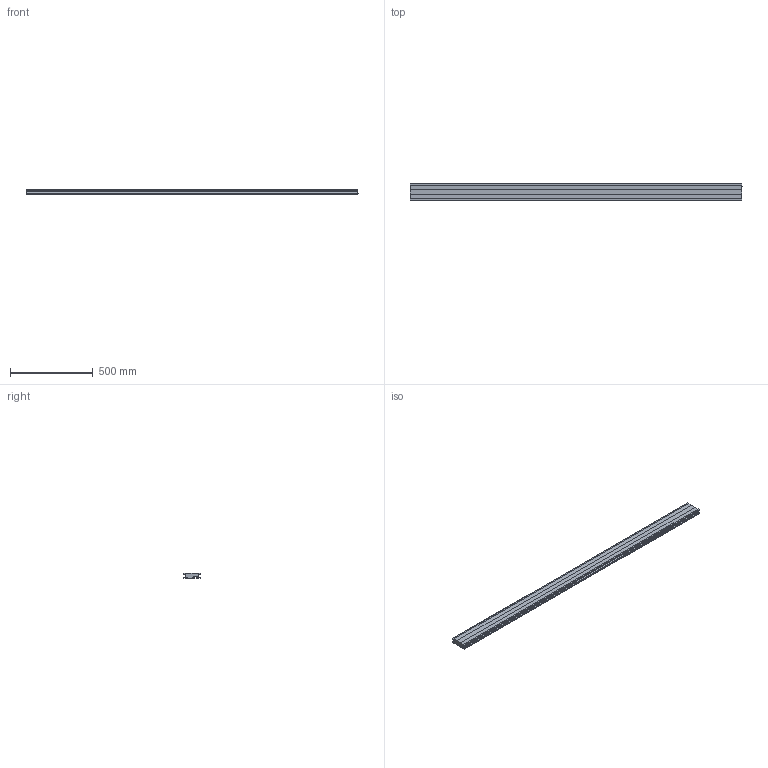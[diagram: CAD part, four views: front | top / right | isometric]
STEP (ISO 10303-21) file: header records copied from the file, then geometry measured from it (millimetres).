
FILE_DESCRIPTION (( 'STEP AP214' ), '1' );
FILE_NAME ('04566.STEP', '2014-03-31T09:35:40', ( '' ), ( '' ), 'SwSTEP 2.0', 'SolidWorks 2014', '' );
FILE_SCHEMA (( 'AUTOMOTIVE_DESIGN' ));
Length unit declared in the file: millimetre
Products named in the file (1): 04566
Bounding box: 2000 x 100 x 31.4 mm (x, y, z)
Volume: 4799558.6 mm3; surface area: 728275.5 mm2
Topology: 1 solids, 1 shells, 86 faces, 252 edges, 168 vertices
Faces by surface type: plane 46, cylinder 40
Entity records: 2932 total; most frequent: CARTESIAN_POINT 507, DIRECTION 506, ORIENTED_EDGE 504, EDGE_CURVE 252, LINE 172, VECTOR 172, VERTEX_POINT 168, AXIS2_PLACEMENT_3D 167
